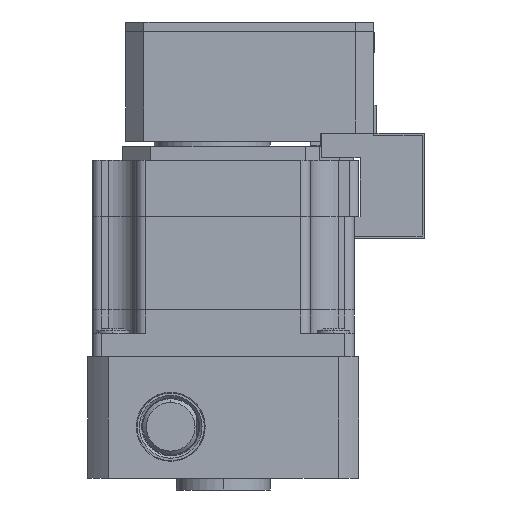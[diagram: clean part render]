
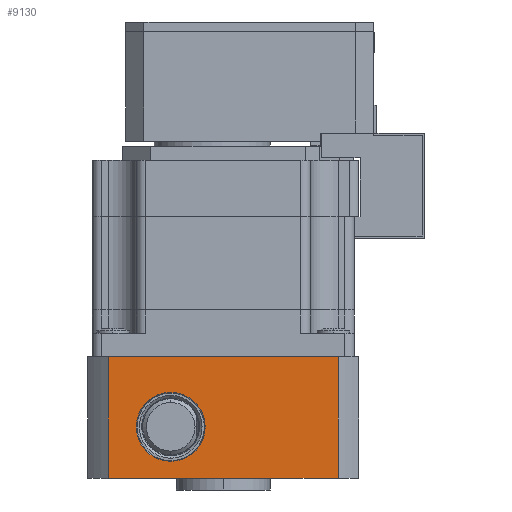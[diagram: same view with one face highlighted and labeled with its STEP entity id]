
A CAD part, front view. The second image highlights one B-rep face of the part: STEP entity #9130.
In plain terms, the highlighted planar face has unit normal (0, -1, 0).
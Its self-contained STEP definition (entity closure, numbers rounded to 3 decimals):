
#2238 = FACE_BOUND ( 'NONE', #8405, .T. ) ;
#2239 = FACE_OUTER_BOUND ( 'NONE', #8373, .T. ) ;
#3854 = CARTESIAN_POINT ( 'NONE',  ( 24.556, -29., -31. ) ) ;
#3855 = CARTESIAN_POINT ( 'NONE',  ( 24.556, -29., -5. ) ) ;
#3859 = CARTESIAN_POINT ( 'NONE',  ( -24.556, -29., -5. ) ) ;
#3900 = CARTESIAN_POINT ( 'NONE',  ( -24.556, -29., -31. ) ) ;
#3958 = CARTESIAN_POINT ( 'NONE',  ( -11.23, -29., -27.364 ) ) ;
#3959 = CARTESIAN_POINT ( 'NONE',  ( -11.23, -29., -12.636 ) ) ;
#6288 = PLANE ( 'NONE',  #12519 ) ;
#6289 = CARTESIAN_POINT ( 'NONE',  ( 29., -29., -5. ) ) ;
#6290 = DIRECTION ( 'NONE',  ( 0., -1., 0. ) ) ;
#6291 = DIRECTION ( 'NONE',  ( 0., 0., 1. ) ) ;
#8373 = EDGE_LOOP ( 'NONE', ( #32190, #32191, #32192, #32193 ) ) ;
#8405 = EDGE_LOOP ( 'NONE', ( #32188, #32189 ) ) ;
#9130 = ADVANCED_FACE ( 'NONE', ( #2238, #2239 ), #6288, .T. ) ;
#9864 = VERTEX_POINT ( 'NONE', #3854 ) ;
#9865 = VERTEX_POINT ( 'NONE', #3855 ) ;
#9869 = VERTEX_POINT ( 'NONE', #3859 ) ;
#9910 = VERTEX_POINT ( 'NONE', #3900 ) ;
#9968 = VERTEX_POINT ( 'NONE', #3958 ) ;
#9969 = VERTEX_POINT ( 'NONE', #3959 ) ;
#12519 = AXIS2_PLACEMENT_3D ( 'NONE', #6289, #6290, #6291 ) ;
#19918 = AXIS2_PLACEMENT_3D ( 'NONE', #28942, #28943, #28944 ) ;
#19967 = AXIS2_PLACEMENT_3D ( 'NONE', #29179, #29180, #29181 ) ;
#27454 = CIRCLE ( 'NONE', #19918, 7.364 ) ;
#27584 = CIRCLE ( 'NONE', #19967, 7.364 ) ;
#27589 = LINE ( 'NONE', #29193, #27591 ) ;
#27591 = VECTOR ( 'NONE', #29194, 1000. ) ;
#27609 = LINE ( 'NONE', #29226, #27610 ) ;
#27610 = VECTOR ( 'NONE', #29227, 1000. ) ;
#27611 = LINE ( 'NONE', #29231, #27613 ) ;
#27613 = VECTOR ( 'NONE', #29232, 1000. ) ;
#27614 = LINE ( 'NONE', #29233, #27615 ) ;
#27615 = VECTOR ( 'NONE', #29234, 1000. ) ;
#28942 = CARTESIAN_POINT ( 'NONE',  ( -11.23, -29., -20. ) ) ;
#28943 = DIRECTION ( 'NONE',  ( 0., 1., 0. ) ) ;
#28944 = DIRECTION ( 'NONE',  ( 0., 0., 1. ) ) ;
#29179 = CARTESIAN_POINT ( 'NONE',  ( -11.23, -29., -20. ) ) ;
#29180 = DIRECTION ( 'NONE',  ( 0., 1., 0. ) ) ;
#29181 = DIRECTION ( 'NONE',  ( 0., 0., 1. ) ) ;
#29193 = CARTESIAN_POINT ( 'NONE',  ( 29., -29., -5. ) ) ;
#29194 = DIRECTION ( 'NONE',  ( -1., 0., 0. ) ) ;
#29226 = CARTESIAN_POINT ( 'NONE',  ( 24.556, -29., -5. ) ) ;
#29227 = DIRECTION ( 'NONE',  ( 0., 0., 1. ) ) ;
#29231 = CARTESIAN_POINT ( 'NONE',  ( 0., -29., -31. ) ) ;
#29232 = DIRECTION ( 'NONE',  ( -1., 0., 0. ) ) ;
#29233 = CARTESIAN_POINT ( 'NONE',  ( -24.556, -29., -31. ) ) ;
#29234 = DIRECTION ( 'NONE',  ( 0., 0., 1. ) ) ;
#32188 = ORIENTED_EDGE ( 'NONE', *, *, #32483, .T. ) ;
#32189 = ORIENTED_EDGE ( 'NONE', *, *, #32575, .T. ) ;
#32190 = ORIENTED_EDGE ( 'NONE', *, *, #32595, .F. ) ;
#32191 = ORIENTED_EDGE ( 'NONE', *, *, #32593, .T. ) ;
#32192 = ORIENTED_EDGE ( 'NONE', *, *, #32580, .T. ) ;
#32193 = ORIENTED_EDGE ( 'NONE', *, *, #32596, .F. ) ;
#32483 = EDGE_CURVE ( 'NONE', #9969, #9968, #27454, .T. ) ;
#32575 = EDGE_CURVE ( 'NONE', #9968, #9969, #27584, .T. ) ;
#32580 = EDGE_CURVE ( 'NONE', #9865, #9869, #27589, .T. ) ;
#32593 = EDGE_CURVE ( 'NONE', #9864, #9865, #27609, .T. ) ;
#32595 = EDGE_CURVE ( 'NONE', #9864, #9910, #27611, .T. ) ;
#32596 = EDGE_CURVE ( 'NONE', #9910, #9869, #27614, .T. ) ;
